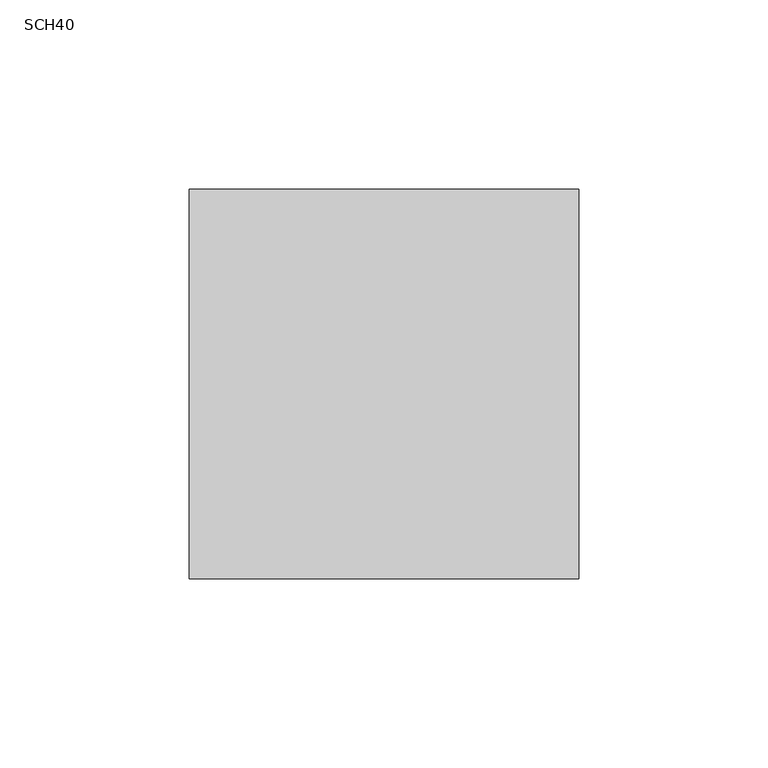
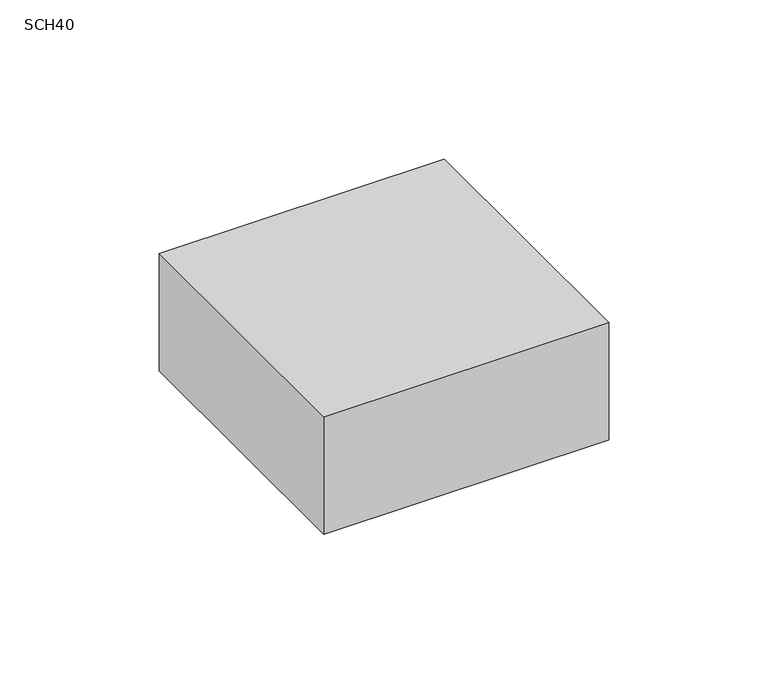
"""IFC4 building model written with IfcOpenShell, lengths in millimetres: cable carrier fitting geometry, PavcoWavin_ConduitFittings_CajaDoble_Codo : SCH40."""

from ifc_helpers import new_model, si_unit, frame, origin, place, context, project, spatial, polyline, outline, extrude, source, transform, mapped, element, save


def sch40_e125807a(model_context):
    return source(origin(), model_context, "Body", "SweptSolid", [
        extrude(outline(polyline([(34.05, 51.55), (34.05, -51.55), (-69.05, -51.55), (-69.05, 51.55), (34.05, 51.55)])), frame((0.0, 0.0, -22.5), z_axis=(0.0, 0.0, 1.0), x_axis=(1.0, 0.0, 0.0)), (0.0, 0.0, 1.0), 45.0),
    ])


if __name__ == "__main__":
    model = new_model("IFC4")
    model_context = context("Model", 3, world=origin())
    ifc_project = project(units=[si_unit("LENGTHUNIT", "METRE", prefix="MILLI")], contexts=[model_context])
    site = spatial("IfcSite", under=ifc_project)
    building = spatial("IfcBuilding", under=site)
    placement = place(None, origin())
    sch40_shape = sch40_e125807a(model_context)
    element("IfcCableCarrierFitting", 1, ObjectType="PavcoWavin_ConduitFittings_CajaDoble_Codo : SCH40", at=placement, inside=building, context=model_context, shape_type="MappedRepresentation", body=[
        mapped(sch40_shape, transform((0.0, 0.0, 0.0), x_axis=(1.0, 0.0, 0.0), y_axis=(0.0, 1.0, 0.0), z_axis=(0.0, 0.0, 1.0))),
    ])
    save(model, "model.ifc")
